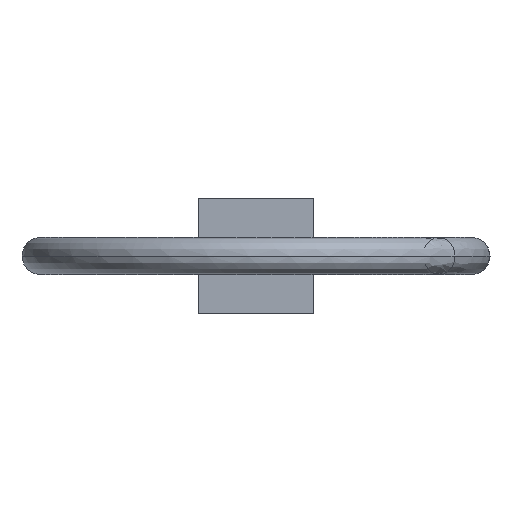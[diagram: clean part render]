
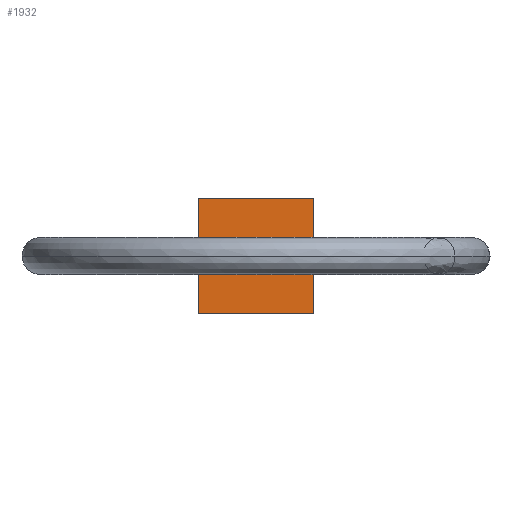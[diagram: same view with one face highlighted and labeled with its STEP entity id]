
A CAD part, left-side view. The second image highlights one B-rep face of the part: STEP entity #1932.
In plain terms, the highlighted planar face has unit normal (1, 0, 0).
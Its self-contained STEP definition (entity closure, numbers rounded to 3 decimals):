
#129 = B_SPLINE_CURVE_WITH_KNOTS ( 'NONE', 3,
 ( #130, #131, #132, #133, #134, #135, #136, #137, #138, #139, #140, #141, #142, #143, #144, #145, #146, #147, #148, #151, #152, #153, #154, #155, #156, #157, #158, #159, #160, #161 ),
 .UNSPECIFIED., .F., .F.,
 ( 4, 2, 1, 1, 2, 2, 1, 2, 2, 2, 1, 2, 2, 1, 1, 2, 2, 4 ),
 ( 0., 0.125, 0.188, 0.219, 0.234, 0.25, 0.313, 0.344, 0.375, 0.5, 0.563, 0.594, 0.625, 0.688, 0.719, 0.734, 0.75, 1. ),
 .UNSPECIFIED. ) ;
#130 = CARTESIAN_POINT ( 'NONE',  ( -122., -0.405, 0. ) ) ;
#131 = CARTESIAN_POINT ( 'NONE',  ( -122., -0.405, -0.045 ) ) ;
#132 = CARTESIAN_POINT ( 'NONE',  ( -122., -0.398, -0.088 ) ) ;
#133 = CARTESIAN_POINT ( 'NONE',  ( -122., -0.378, -0.149 ) ) ;
#134 = CARTESIAN_POINT ( 'NONE',  ( -122., -0.365, -0.178 ) ) ;
#135 = CARTESIAN_POINT ( 'NONE',  ( -122., -0.346, -0.211 ) ) ;
#136 = CARTESIAN_POINT ( 'NONE',  ( -122., -0.337, -0.225 ) ) ;
#137 = CARTESIAN_POINT ( 'NONE',  ( -122., -0.331, -0.234 ) ) ;
#138 = CARTESIAN_POINT ( 'NONE',  ( -122., -0.329, -0.237 ) ) ;
#139 = CARTESIAN_POINT ( 'NONE',  ( -122., -0.306, -0.267 ) ) ;
#140 = CARTESIAN_POINT ( 'NONE',  ( -122., -0.276, -0.299 ) ) ;
#141 = CARTESIAN_POINT ( 'NONE',  ( -122., -0.241, -0.326 ) ) ;
#142 = CARTESIAN_POINT ( 'NONE',  ( -122., -0.216, -0.343 ) ) ;
#143 = CARTESIAN_POINT ( 'NONE',  ( -122., -0.206, -0.349 ) ) ;
#144 = CARTESIAN_POINT ( 'NONE',  ( -122., -0.131, -0.389 ) ) ;
#145 = CARTESIAN_POINT ( 'NONE',  ( -122., -0.068, -0.405 ) ) ;
#146 = CARTESIAN_POINT ( 'NONE',  ( -122., 0.034, -0.405 ) ) ;
#147 = CARTESIAN_POINT ( 'NONE',  ( -122., 0.083, -0.399 ) ) ;
#148 = CARTESIAN_POINT ( 'NONE',  ( -122., 0.13, -0.384 ) ) ;
#151 = CARTESIAN_POINT ( 'NONE',  ( -122., 0.161, -0.372 ) ) ;
#152 = CARTESIAN_POINT ( 'NONE',  ( -122., 0.177, -0.364 ) ) ;
#153 = CARTESIAN_POINT ( 'NONE',  ( -122., 0.217, -0.343 ) ) ;
#154 = CARTESIAN_POINT ( 'NONE',  ( -122., 0.254, -0.318 ) ) ;
#155 = CARTESIAN_POINT ( 'NONE',  ( -122., 0.291, -0.283 ) ) ;
#156 = CARTESIAN_POINT ( 'NONE',  ( -122., 0.305, -0.266 ) ) ;
#157 = CARTESIAN_POINT ( 'NONE',  ( -122., 0.315, -0.255 ) ) ;
#158 = CARTESIAN_POINT ( 'NONE',  ( -122., 0.321, -0.248 ) ) ;
#159 = CARTESIAN_POINT ( 'NONE',  ( -122., 0.378, -0.17 ) ) ;
#160 = CARTESIAN_POINT ( 'NONE',  ( -122., 0.405, -0.09 ) ) ;
#161 = CARTESIAN_POINT ( 'NONE',  ( -122., 0.405, 0. ) ) ;
#242 = FACE_BOUND ( 'NONE', #1917, .T. ) ;
#243 = FACE_OUTER_BOUND ( 'NONE', #1914, .T. ) ;
#244 = PLANE ( 'NONE',  #245 ) ;
#245 = AXIS2_PLACEMENT_3D ( 'NONE', #246, #247, #248 ) ;
#246 = CARTESIAN_POINT ( 'NONE',  ( -122., -1.3, -1.3 ) ) ;
#247 = DIRECTION ( 'NONE',  ( 1., 0., 0. ) ) ;
#248 = DIRECTION ( 'NONE',  ( 0., 1., 0. ) ) ;
#264 = CARTESIAN_POINT ( 'NONE',  ( -122., 1.25, -1.25 ) ) ;
#386 = LINE ( 'NONE', #387, #388 ) ;
#387 = CARTESIAN_POINT ( 'NONE',  ( -122., 0., -1.25 ) ) ;
#388 = VECTOR ( 'NONE', #389, 1000. ) ;
#389 = DIRECTION ( 'NONE',  ( 0., -1., 0. ) ) ;
#809 = EDGE_CURVE ( 'NONE', #1512, #884, #1108, .T. ) ;
#840 = ORIENTED_EDGE ( 'NONE', *, *, #809, .F. ) ;
#848 = VERTEX_POINT ( 'NONE', #1387 ) ;
#865 = EDGE_CURVE ( 'NONE', #848, #1645, #1652, .T. ) ;
#884 = VERTEX_POINT ( 'NONE', #264 ) ;
#901 = ORIENTED_EDGE ( 'NONE', *, *, #865, .F. ) ;
#903 = LINE ( 'NONE', #904, #905 ) ;
#904 = CARTESIAN_POINT ( 'NONE',  ( -122., 0., 1.25 ) ) ;
#905 = VECTOR ( 'NONE', #906, 1000. ) ;
#906 = DIRECTION ( 'NONE',  ( 0., 1., 0. ) ) ;
#952 = EDGE_CURVE ( 'NONE', #884, #848, #386, .T. ) ;
#1108 = LINE ( 'NONE', #1109, #1110 ) ;
#1109 = CARTESIAN_POINT ( 'NONE',  ( -122., 1.25, 0. ) ) ;
#1110 = VECTOR ( 'NONE', #1111, 1000. ) ;
#1111 = DIRECTION ( 'NONE',  ( 0., 0., -1. ) ) ;
#1240 = ORIENTED_EDGE ( 'NONE', *, *, #952, .F. ) ;
#1387 = CARTESIAN_POINT ( 'NONE',  ( -122., -1.25, -1.25 ) ) ;
#1404 = CARTESIAN_POINT ( 'NONE',  ( -122., 1.25, 1.25 ) ) ;
#1405 = CARTESIAN_POINT ( 'NONE',  ( -122., -0.405, 0. ) ) ;
#1407 = CARTESIAN_POINT ( 'NONE',  ( -122., 0.405, 0. ) ) ;
#1512 = VERTEX_POINT ( 'NONE', #1404 ) ;
#1514 = VERTEX_POINT ( 'NONE', #1407 ) ;
#1546 = CARTESIAN_POINT ( 'NONE',  ( -122., -1.25, 1.25 ) ) ;
#1645 = VERTEX_POINT ( 'NONE', #1546 ) ;
#1652 = LINE ( 'NONE', #1653, #1654 ) ;
#1653 = CARTESIAN_POINT ( 'NONE',  ( -122., -1.25, 0. ) ) ;
#1654 = VECTOR ( 'NONE', #1655, 1000. ) ;
#1655 = DIRECTION ( 'NONE',  ( 0., 0., 1. ) ) ;
#1737 = EDGE_CURVE ( 'NONE', #1514, #1973, #1786, .T. ) ;
#1786 = B_SPLINE_CURVE_WITH_KNOTS ( 'NONE', 3,
 ( #1787, #1788, #1789, #1791, #1792, #1793, #1794, #1795, #1796, #1797, #1798, #1799, #1800, #1801, #1802, #1803, #1804, #1805, #1806, #1810, #1811, #1812, #1813, #1814, #1815, #1816, #1817, #1818, #1819, #1820 ),
 .UNSPECIFIED., .F., .F.,
 ( 4, 2, 1, 1, 2, 2, 1, 2, 2, 2, 1, 2, 2, 1, 1, 2, 2, 4 ),
 ( 0., 0.125, 0.187, 0.219, 0.234, 0.25, 0.312, 0.344, 0.375, 0.5, 0.562, 0.594, 0.625, 0.687, 0.719, 0.734, 0.75, 1. ),
 .UNSPECIFIED. ) ;
#1787 = CARTESIAN_POINT ( 'NONE',  ( -122., 0.405, 0. ) ) ;
#1788 = CARTESIAN_POINT ( 'NONE',  ( -122., 0.405, 0.045 ) ) ;
#1789 = CARTESIAN_POINT ( 'NONE',  ( -122., 0.398, 0.088 ) ) ;
#1791 = CARTESIAN_POINT ( 'NONE',  ( -122., 0.378, 0.149 ) ) ;
#1792 = CARTESIAN_POINT ( 'NONE',  ( -122., 0.365, 0.178 ) ) ;
#1793 = CARTESIAN_POINT ( 'NONE',  ( -122., 0.346, 0.211 ) ) ;
#1794 = CARTESIAN_POINT ( 'NONE',  ( -122., 0.337, 0.225 ) ) ;
#1795 = CARTESIAN_POINT ( 'NONE',  ( -122., 0.331, 0.234 ) ) ;
#1796 = CARTESIAN_POINT ( 'NONE',  ( -122., 0.329, 0.237 ) ) ;
#1797 = CARTESIAN_POINT ( 'NONE',  ( -122., 0.306, 0.267 ) ) ;
#1798 = CARTESIAN_POINT ( 'NONE',  ( -122., 0.276, 0.299 ) ) ;
#1799 = CARTESIAN_POINT ( 'NONE',  ( -122., 0.241, 0.326 ) ) ;
#1800 = CARTESIAN_POINT ( 'NONE',  ( -122., 0.216, 0.343 ) ) ;
#1801 = CARTESIAN_POINT ( 'NONE',  ( -122., 0.206, 0.349 ) ) ;
#1802 = CARTESIAN_POINT ( 'NONE',  ( -122., 0.131, 0.389 ) ) ;
#1803 = CARTESIAN_POINT ( 'NONE',  ( -122., 0.068, 0.405 ) ) ;
#1804 = CARTESIAN_POINT ( 'NONE',  ( -122., -0.034, 0.405 ) ) ;
#1805 = CARTESIAN_POINT ( 'NONE',  ( -122., -0.083, 0.399 ) ) ;
#1806 = CARTESIAN_POINT ( 'NONE',  ( -122., -0.13, 0.384 ) ) ;
#1810 = CARTESIAN_POINT ( 'NONE',  ( -122., -0.161, 0.372 ) ) ;
#1811 = CARTESIAN_POINT ( 'NONE',  ( -122., -0.177, 0.364 ) ) ;
#1812 = CARTESIAN_POINT ( 'NONE',  ( -122., -0.217, 0.343 ) ) ;
#1813 = CARTESIAN_POINT ( 'NONE',  ( -122., -0.254, 0.318 ) ) ;
#1814 = CARTESIAN_POINT ( 'NONE',  ( -122., -0.291, 0.283 ) ) ;
#1815 = CARTESIAN_POINT ( 'NONE',  ( -122., -0.305, 0.266 ) ) ;
#1816 = CARTESIAN_POINT ( 'NONE',  ( -122., -0.315, 0.255 ) ) ;
#1817 = CARTESIAN_POINT ( 'NONE',  ( -122., -0.321, 0.248 ) ) ;
#1818 = CARTESIAN_POINT ( 'NONE',  ( -122., -0.378, 0.17 ) ) ;
#1819 = CARTESIAN_POINT ( 'NONE',  ( -122., -0.405, 0.09 ) ) ;
#1820 = CARTESIAN_POINT ( 'NONE',  ( -122., -0.405, 0. ) ) ;
#1861 = EDGE_CURVE ( 'NONE', #1645, #1512, #903, .T. ) ;
#1876 = ORIENTED_EDGE ( 'NONE', *, *, #1737, .F. ) ;
#1886 = ORIENTED_EDGE ( 'NONE', *, *, #1861, .F. ) ;
#1914 = EDGE_LOOP ( 'NONE', ( #1886, #901, #1240, #840 ) ) ;
#1917 = EDGE_LOOP ( 'NONE', ( #1876, #1951 ) ) ;
#1928 = EDGE_CURVE ( 'NONE', #1973, #1514, #129, .T. ) ;
#1932 = ADVANCED_FACE ( 'NONE', ( #242, #243 ), #244, .T. ) ;
#1951 = ORIENTED_EDGE ( 'NONE', *, *, #1928, .F. ) ;
#1973 = VERTEX_POINT ( 'NONE', #1405 ) ;
